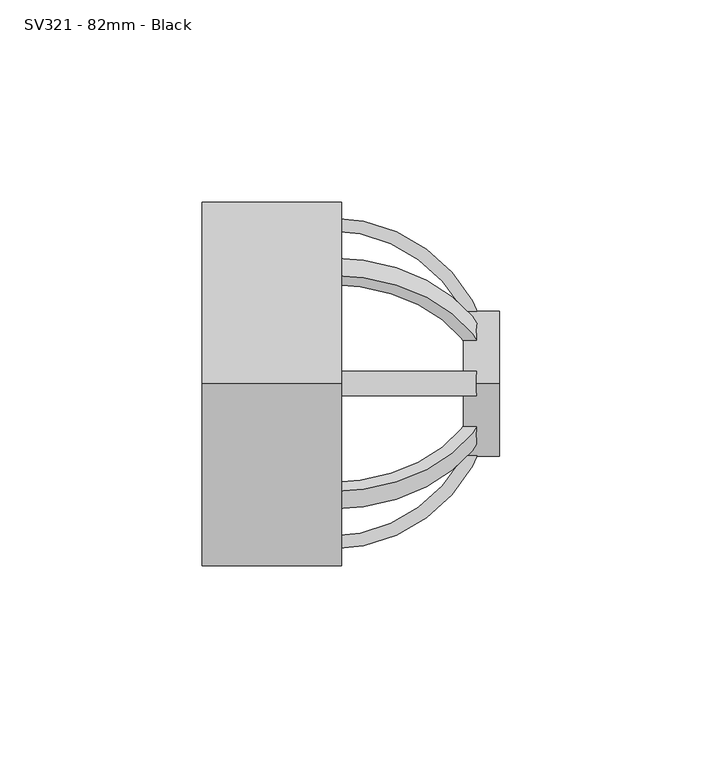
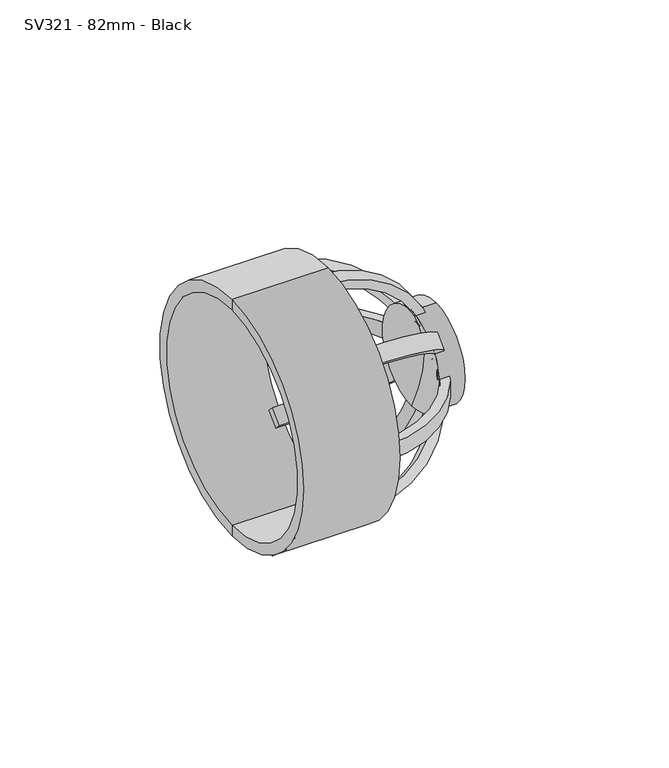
"""IFC4 building model written with IfcOpenShell, lengths in millimetres: pipe fitting geometry, MarleyPlumbingAndDrainage_PipeFitting_VentTerminal_SV321 : SV321 - 82mm - Black."""

from ifc_helpers import new_model, si_unit, point, frame, frame_2d, origin, place, context, project, spatial, polyline, circle_curve, ellipse_curve, trimmed, segment, composite_curve, outline, extrude, source, transform, mapped, element, save
from ifc_brep_helpers import plane_surface, cylinder_surface, revolved_surface, advanced_brep


def sv321_82mm_black_45549914(model_context):
    return source(origin(), model_context, "Body", "SolidModel", [
        advanced_brep(
        [(-257.1858175, 0.0, -18.0), (-257.1858175, 0.0, 18.0), (-257.1858175, 0.0, 0.0), (-266.1466839, 0.0, -18.0), (-266.1466839, 0.0, 18.0), (-261.5858175, 0.0, 0.0)],
        [
            (0, 1, circle_curve(frame((-257.1858175, 0.0, 0.0), z_axis=(1.0, 0.0, 0.0), x_axis=(0.0, 0.0, 1.0)), 18.0)),
            (1, 2),
            (2, 0),
            (1, 0, circle_curve(frame((-257.1858175, 0.0, 0.0), z_axis=(1.0, 0.0, 0.0), x_axis=(0.0, 0.0, 1.0)), 18.0)),
            (3, 4, circle_curve(frame((-266.1466839, 0.0, 0.0), z_axis=(1.0, 0.0, 0.0), x_axis=(0.0, 0.0, 1.0)), 18.0)),
            (4, 1),
            (0, 3),
            (4, 3, circle_curve(frame((-266.1466839, 0.0, 0.0), z_axis=(1.0, 0.0, 0.0), x_axis=(0.0, 0.0, 1.0)), 18.0)),
            (5, 4, circle_curve(frame((-299.3858175, 0.0, 0.0), z_axis=(0.0, -1.0, 0.0), x_axis=(0.0, 0.0, -1.0)), 37.8)),
            (3, 5, circle_curve(frame((-299.3858175, 0.0, 0.0), z_axis=(0.0, -1.0, 0.0), x_axis=(0.0, 0.0, 1.0)), 37.8)),
        ],
        [
            plane_surface(frame((-257.1858175, 0.0, 0.0), z_axis=(1.0, 0.0, 0.0), x_axis=(0.0, 0.0, 1.0))),
            cylinder_surface(frame((1862.1291855, 0.0, 0.0), z_axis=(-1.0, 0.0, 0.0), x_axis=(0.0, 0.0, 1.0)), 18.0),
            revolved_surface(trimmed(ellipse_curve(frame((-299.3858175, 0.0, 0.0), z_axis=(0.0, 1.0, 0.0), x_axis=(0.0, 0.0, -1.0)), 37.8, 37.8), [point((-266.1466839, 0.0, 18.0))], [point((-261.5858175, 0.0, 0.0))], True, "CARTESIAN"), (1862.1291855, 0.0, 0.0), (-1.0, 0.0, 0.0)),
        ],
        [
            (0, [[1, 2, 3]]),
            (0, [[4, -3, -2]]),
            (1, [[5, 6, -1, 7]]),
            (1, [[8, -7, -4, -6]]),
            (2, [[9, -5, 10]]),
            (2, [[-10, -8, -9]]),
        ],
    ),
        extrude(outline(composite_curve([segment(polyline([(-299.3858175, -41.0), (-299.3858175, -37.8)]), True, "CONTINUOUS"), segment(trimmed(circle_curve(frame_2d((-299.3858175, 0.0)), 37.8), [point((-299.3858175, -37.8))], [point((-299.3858175, 37.8))], True, "CARTESIAN"), True, "CONTINUOUS"), segment(polyline([(-299.3858175, 37.8), (-299.3858175, 41.0)]), True, "CONTINUOUS"), segment(trimmed(circle_curve(frame_2d((-299.3858175, 0.0)), 41.0), [point((-299.3858175, 41.0))], [point((-299.3858175, -41.0))], False, "CARTESIAN"), True, "CONTINUOUS")], self_intersect=False)), frame((0.0, 0.0, -3.0), z_axis=(0.0, 0.0, 1.0), x_axis=(1.0, 0.0, 0.0)), (0.0, 0.0, 1.0), 6.0),
        extrude(outline(composite_curve([segment(polyline([(-3.1999999, 0.0), (0.0, 0.0)]), True, "CONTINUOUS"), segment(trimmed(circle_curve(frame_2d((37.8, 0.0)), 37.8), [point((0.0, 0.0))], [point((75.6, 0.0))], True, "CARTESIAN"), True, "CONTINUOUS"), segment(polyline([(75.6, 0.0), (78.8, 0.0)]), True, "CONTINUOUS"), segment(trimmed(circle_curve(frame_2d((37.8, 0.0)), 41.0), [point((78.8, 0.0))], [point((-3.1999999, 0.0))], False, "CARTESIAN"), True, "CONTINUOUS")], self_intersect=False)), frame((-299.3858175, -24.5367415, -28.9100038), z_axis=(0.0, -0.7088326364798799, 0.7053767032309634), x_axis=(0.0, 0.7053767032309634, 0.7088326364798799)), (0.0, 0.0, 1.0), 6.0),
        extrude(outline(composite_curve([segment(polyline([(-3.2, 0.0), (0.0, 0.0)]), True, "CONTINUOUS"), segment(trimmed(circle_curve(frame_2d((37.8, 0.0)), 37.8), [point((0.0, 0.0))], [point((75.6000001, 0.0))], True, "CARTESIAN"), True, "CONTINUOUS"), segment(polyline([(75.6000001, 0.0), (78.8000001, 0.0)]), True, "CONTINUOUS"), segment(trimmed(circle_curve(frame_2d((37.8, 0.0)), 41.0), [point((78.8000001, 0.0))], [point((-3.2, 0.0))], False, "CARTESIAN"), True, "CONTINUOUS")], self_intersect=False)), frame((-299.3858175, -28.7923045, 24.6747483), z_axis=(0.0, 0.7087592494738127, 0.7054504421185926), x_axis=(0.0, 0.7054504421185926, -0.7087592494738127)), (0.0, 0.0, 1.0), 6.0),
        extrude(outline(composite_curve([segment(polyline([(41.0, -299.3858175), (37.8, -299.3858175)]), True, "CONTINUOUS"), segment(trimmed(circle_curve(frame_2d((0.0, -299.3858175)), 37.8), [point((37.8, -299.3858175))], [point((-37.8, -299.3858175))], True, "CARTESIAN"), True, "CONTINUOUS"), segment(polyline([(-37.8, -299.3858175), (-41.0, -299.3858175)]), True, "CONTINUOUS"), segment(trimmed(circle_curve(frame_2d((0.0, -299.3858175)), 41.0), [point((-41.0, -299.3858175))], [point((41.0, -299.3858175))], False, "CARTESIAN"), True, "CONTINUOUS")], self_intersect=False)), frame((0.0, -3.0, 0.0), z_axis=(0.0, 1.0, 0.0), x_axis=(0.0, 0.0, 1.0)), (0.0, 0.0, 1.0), 6.0),
        advanced_brep(
        [(-330.6858175, 0.0, -45.0), (-330.6858175, 0.0, 45.0), (-296.1858175, 0.0, 45.0), (-296.1858175, 0.0, -45.0), (-330.6858175, 0.0, -41.0), (-330.6858175, 0.0, 41.0), (-296.1858175, 0.0, 41.0), (-296.1858175, 0.0, -41.0)],
        [
            (0, 1, circle_curve(frame((-330.6858175, 0.0, 0.0), z_axis=(1.0, 0.0, 0.0), x_axis=(0.0, 0.0, 1.0)), 45.0)),
            (1, 2),
            (2, 3, circle_curve(frame((-296.1858175, 0.0, 0.0), z_axis=(-1.0, 0.0, 0.0), x_axis=(0.0, 0.0, 1.0)), 45.0)),
            (3, 0),
            (1, 0, circle_curve(frame((-330.6858175, 0.0, 0.0), z_axis=(1.0, 0.0, 0.0), x_axis=(0.0, 0.0, 1.0)), 45.0)),
            (3, 2, circle_curve(frame((-296.1858175, 0.0, 0.0), z_axis=(-1.0, 0.0, 0.0), x_axis=(0.0, 0.0, 1.0)), 45.0)),
            (4, 5, circle_curve(frame((-330.6858175, 0.0, 0.0), z_axis=(1.0, 0.0, 0.0), x_axis=(0.0, 0.0, 1.0)), 41.0)),
            (5, 1),
            (0, 4),
            (5, 4, circle_curve(frame((-330.6858175, 0.0, 0.0), z_axis=(1.0, 0.0, 0.0), x_axis=(0.0, 0.0, 1.0)), 41.0)),
            (2, 6),
            (6, 7, circle_curve(frame((-296.1858175, 0.0, 0.0), z_axis=(-1.0, 0.0, 0.0), x_axis=(0.0, 0.0, 1.0)), 41.0)),
            (7, 3),
            (7, 6, circle_curve(frame((-296.1858175, 0.0, 0.0), z_axis=(-1.0, 0.0, 0.0), x_axis=(0.0, 0.0, 1.0)), 41.0)),
            (6, 5),
            (4, 7),
        ],
        [
            cylinder_surface(frame((1856.5400967, 0.0, 0.0), z_axis=(-1.0, 0.0, 0.0), x_axis=(0.0, 0.0, 1.0)), 45.0),
            plane_surface(frame((-330.6858175, 0.0, 0.0), z_axis=(-1.0, 0.0, 0.0), x_axis=(0.0, 0.0, 1.0))),
            plane_surface(frame((-296.1858175, 0.0, 0.0), z_axis=(1.0, 0.0, 0.0), x_axis=(0.0, 0.0, 1.0))),
            revolved_surface(polyline([(-330.6858175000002, 0.0, 41.0), (-296.1858175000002, 0.0, 41.0)]), (1856.5400967, 0.0, 0.0), (-1.0, 0.0, 0.0)),
        ],
        [
            (0, [[1, 2, 3, 4]]),
            (0, [[5, -4, 6, -2]]),
            (1, [[7, 8, -1, 9]]),
            (1, [[10, -9, -5, -8]]),
            (2, [[-3, 11, 12, 13]]),
            (2, [[-6, -13, 14, -11]]),
            (3, [[-12, 15, -7, 16]]),
            (3, [[-14, -16, -10, -15]]),
        ],
    ),
    ])


if __name__ == "__main__":
    model = new_model("IFC4")
    model_context = context("Model", 3, world=origin())
    ifc_project = project(units=[si_unit("LENGTHUNIT", "METRE", prefix="MILLI")], contexts=[model_context])
    site = spatial("IfcSite", under=ifc_project)
    building = spatial("IfcBuilding", under=site)
    placement = place(None, origin())
    sv321_82mm_black_shape = sv321_82mm_black_45549914(model_context)
    element("IfcPipeFitting", 1, ObjectType="MarleyPlumbingAndDrainage_PipeFitting_VentTerminal_SV321 : SV321 - 82mm - Black", at=placement, inside=building, context=model_context, shape_type="MappedRepresentation", body=[
        mapped(sv321_82mm_black_shape, transform((0.0, 0.0, 0.0), x_axis=(1.0, 0.0, 0.0), y_axis=(0.0, 1.0, 0.0), z_axis=(0.0, 0.0, 1.0))),
    ])
    save(model, "model.ifc")
